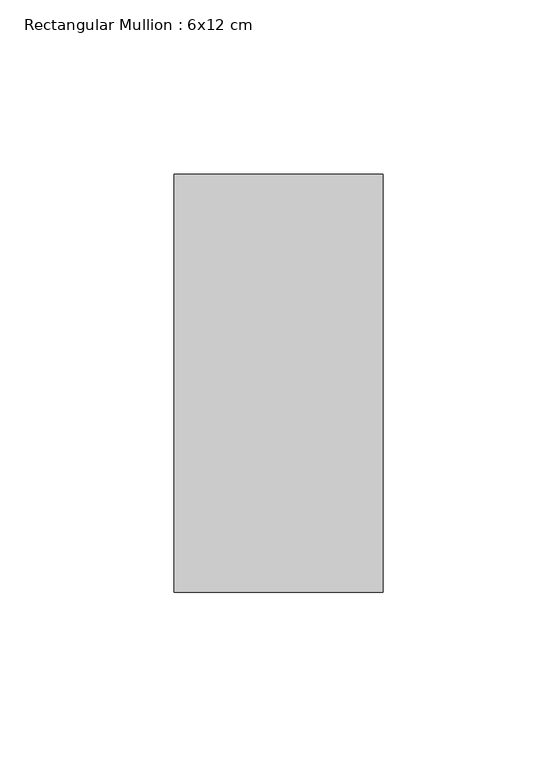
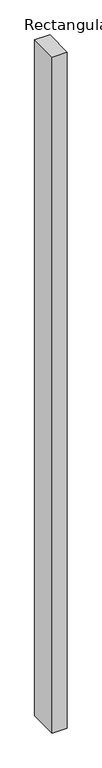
"""IFC4 building model written with IfcOpenShell, lengths in millimetres: member geometry, Rectangular Mullion : 6x12 cm."""

from ifc_helpers import new_model, si_unit, frame, origin, place, context, project, spatial, polyline, outline, extrude, source, transform, mapped, element, save


def rectangular_mullion_6x12_cm_9a33c4b6(model_context):
    return source(origin(), model_context, "Body", "SweptSolid", [
        extrude(outline(polyline([(30.0, 205.0), (30.0, 85.0), (-30.0, 85.0), (-30.0, 205.0), (30.0, 205.0)])), frame((0.0, 0.0, -2835.5827855), z_axis=(0.0, 0.0, 1.0), x_axis=(1.0, 0.0, 0.0)), (0.0, 0.0, 1.0), 2835.5827855),
    ])


if __name__ == "__main__":
    model = new_model("IFC4")
    model_context = context("Model", 3, world=origin())
    ifc_project = project(units=[si_unit("LENGTHUNIT", "METRE", prefix="MILLI")], contexts=[model_context])
    site = spatial("IfcSite", under=ifc_project)
    building = spatial("IfcBuilding", under=site)
    placement = place(None, origin())
    rectangular_mullion_6x12_cm_shape = rectangular_mullion_6x12_cm_9a33c4b6(model_context)
    element("IfcMember", 1, ObjectType="Rectangular Mullion : 6x12 cm", at=placement, inside=building, context=model_context, shape_type="MappedRepresentation", body=[
        mapped(rectangular_mullion_6x12_cm_shape, transform((0.0, 0.0, 0.0), x_axis=(1.0, 0.0, 0.0), y_axis=(0.0, 1.0, 0.0), z_axis=(0.0, 0.0, 1.0))),
    ])
    save(model, "model.ifc")
